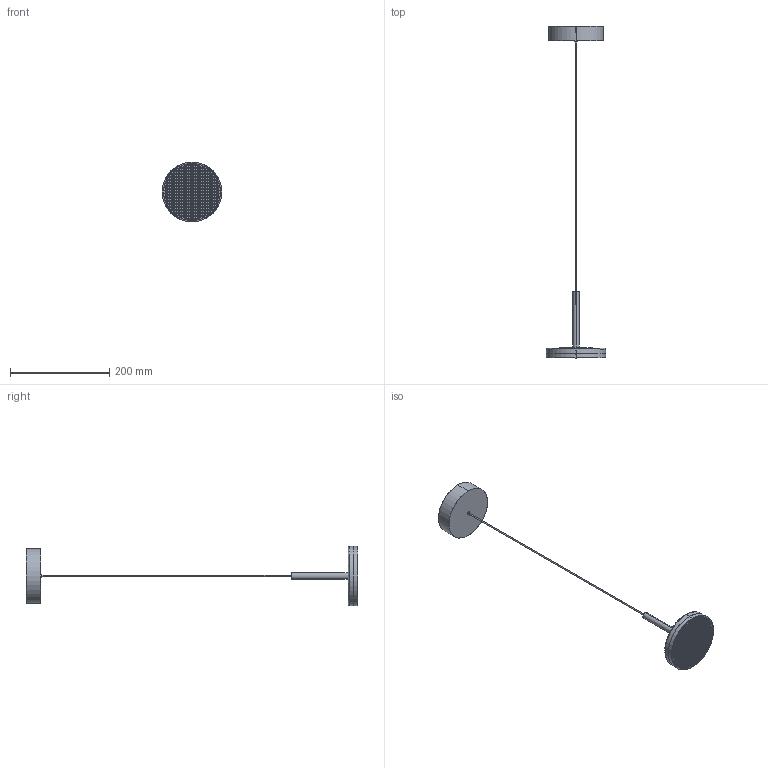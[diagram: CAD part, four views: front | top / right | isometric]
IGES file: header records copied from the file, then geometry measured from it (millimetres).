
Start section: SolidWorks IGES file using analytic representation for surfaces
Global section: file name: \\srvficheros\grupos\DISENYO\DESARROLLO DE PRODUCTO\_3D_WEB\CORVUS-C945002\CORVUS-C945002.IGS; native system: SolidWorks 2025; preprocessor: SolidWorks 2025; author: d.pons; date: 260113.095950; units: millimetre
Bounding box: 120 x 670 x 120 mm (x, y, z)
Surface area: 122776.7 mm2 (no closed solid volume)
Topology: 0 solids, 0 shells, 5591 faces, 34420 edges, 34420 vertices
Faces by surface type: bspline 5571, revolution 20
